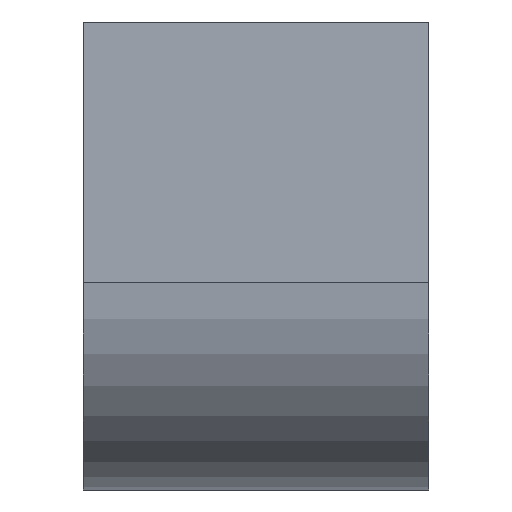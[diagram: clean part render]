
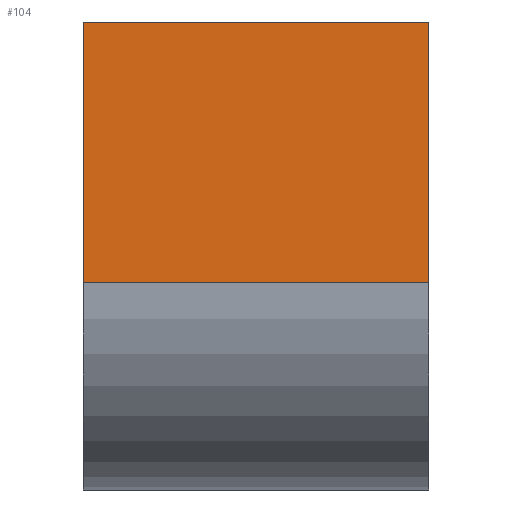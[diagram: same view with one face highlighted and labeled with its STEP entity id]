
A CAD part, left-side view. The second image highlights one B-rep face of the part: STEP entity #104.
In plain terms, the highlighted planar face has unit normal (-1, 0, 0).
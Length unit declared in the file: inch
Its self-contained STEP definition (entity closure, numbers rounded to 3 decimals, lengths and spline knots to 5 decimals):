
#22 = ORIENTED_EDGE ( 'NONE', *, *, #567, .F. ) ;
#46 = LINE ( 'NONE', #57, #429 ) ;
#51 = DIRECTION ( 'NONE',  ( 0., -1., 0. ) ) ;
#57 = CARTESIAN_POINT ( 'NONE',  ( -1.58, 0.433, 0. ) ) ;
#74 = VERTEX_POINT ( 'NONE', #93 ) ;
#83 = ORIENTED_EDGE ( 'NONE', *, *, #655, .F. ) ;
#91 = FACE_OUTER_BOUND ( 'NONE', #600, .T. ) ;
#93 = CARTESIAN_POINT ( 'NONE',  ( -1.58, -0.1, 0. ) ) ;
#95 = CARTESIAN_POINT ( 'NONE',  ( -1.58, 0.433, 0. ) ) ;
#104 = ADVANCED_FACE ( 'NONE', ( #91 ), #517, .F. ) ;
#134 = VERTEX_POINT ( 'NONE', #95 ) ;
#172 = CARTESIAN_POINT ( 'NONE',  ( -1.58, 0.433, 0.402 ) ) ;
#188 = VECTOR ( 'NONE', #421, 39.37008 ) ;
#197 = DIRECTION ( 'NONE',  ( 1., 0., 0. ) ) ;
#208 = LINE ( 'NONE', #587, #305 ) ;
#240 = VERTEX_POINT ( 'NONE', #172 ) ;
#246 = CARTESIAN_POINT ( 'NONE',  ( -1.58, 0.433, 0. ) ) ;
#254 = DIRECTION ( 'NONE',  ( 0., -1., 0. ) ) ;
#281 = ORIENTED_EDGE ( 'NONE', *, *, #676, .F. ) ;
#305 = VECTOR ( 'NONE', #51, 39.37008 ) ;
#309 = LINE ( 'NONE', #478, #188 ) ;
#352 = CARTESIAN_POINT ( 'NONE',  ( -1.58, -0.1, 0.402 ) ) ;
#393 = ORIENTED_EDGE ( 'NONE', *, *, #666, .T. ) ;
#416 = VECTOR ( 'NONE', #683, 39.37008 ) ;
#421 = DIRECTION ( 'NONE',  ( 0., 0., -1. ) ) ;
#429 = VECTOR ( 'NONE', #254, 39.37008 ) ;
#478 = CARTESIAN_POINT ( 'NONE',  ( -1.58, -0.1, 0.402 ) ) ;
#509 = VERTEX_POINT ( 'NONE', #352 ) ;
#517 = PLANE ( 'NONE',  #563 ) ;
#563 = AXIS2_PLACEMENT_3D ( 'NONE', #246, #197, #673 ) ;
#567 = EDGE_CURVE ( 'NONE', #509, #74, #309, .T. ) ;
#577 = CARTESIAN_POINT ( 'NONE',  ( -1.58, 0.433, 0. ) ) ;
#587 = CARTESIAN_POINT ( 'NONE',  ( -1.58, 0.433, 0.402 ) ) ;
#600 = EDGE_LOOP ( 'NONE', ( #393, #22, #83, #281 ) ) ;
#623 = LINE ( 'NONE', #577, #416 ) ;
#655 = EDGE_CURVE ( 'NONE', #240, #509, #208, .T. ) ;
#666 = EDGE_CURVE ( 'NONE', #134, #74, #46, .T. ) ;
#673 = DIRECTION ( 'NONE',  ( 0., 0., -1. ) ) ;
#676 = EDGE_CURVE ( 'NONE', #134, #240, #623, .T. ) ;
#683 = DIRECTION ( 'NONE',  ( 0., 0., 1. ) ) ;
